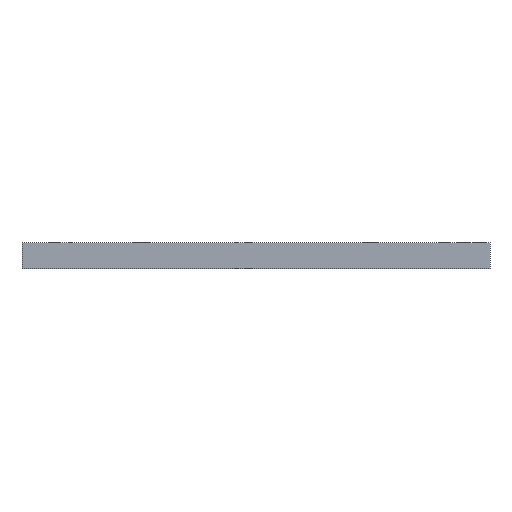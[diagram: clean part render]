
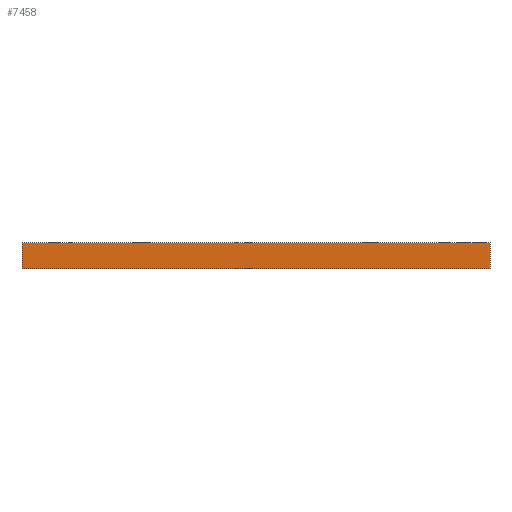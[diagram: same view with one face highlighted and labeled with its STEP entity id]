
A CAD part, front view. The second image highlights one B-rep face of the part: STEP entity #7458.
In plain terms, the highlighted planar face has unit normal (0, -1, 0).
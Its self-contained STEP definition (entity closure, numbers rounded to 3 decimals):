
#7445=AXIS2_PLACEMENT_3D('Plane Axis2P3D',#7442,#7443,#7444) ;
#190=CARTESIAN_POINT('Vertex',(-90.,-92.5,10.)) ;
#193=CARTESIAN_POINT('Line Origine',(0.,-92.5,10.)) ;
#197=CARTESIAN_POINT('Vertex',(90.,-92.5,10.)) ;
#6911=CARTESIAN_POINT('Vertex',(90.,-92.5,0.)) ;
#6914=CARTESIAN_POINT('Line Origine',(0.,-92.5,0.)) ;
#6918=CARTESIAN_POINT('Vertex',(-90.,-92.5,0.)) ;
#7430=CARTESIAN_POINT('Line Origine',(90.,-92.5,5.)) ;
#7442=CARTESIAN_POINT('Axis2P3D Location',(90.,-92.5,0.)) ;
#7447=CARTESIAN_POINT('Line Origine',(-90.,-92.5,5.)) ;
#194=DIRECTION('Vector Direction',(-1.,0.,0.)) ;
#6915=DIRECTION('Vector Direction',(-1.,0.,0.)) ;
#7431=DIRECTION('Vector Direction',(0.,0.,1.)) ;
#7443=DIRECTION('Axis2P3D Direction',(0.,1.,-0.)) ;
#7444=DIRECTION('Axis2P3D XDirection',(-1.,0.,0.)) ;
#7448=DIRECTION('Vector Direction',(0.,0.,1.)) ;
#195=VECTOR('Line Direction',#194,1.) ;
#6916=VECTOR('Line Direction',#6915,1.) ;
#7432=VECTOR('Line Direction',#7431,1.) ;
#7449=VECTOR('Line Direction',#7448,1.) ;
#7453=ORIENTED_EDGE('',*,*,#7451,.F.) ;
#7454=ORIENTED_EDGE('',*,*,#6920,.T.) ;
#7455=ORIENTED_EDGE('',*,*,#7434,.T.) ;
#7456=ORIENTED_EDGE('',*,*,#199,.F.) ;
#7458=ADVANCED_FACE('PartBody',(#7457),#7446,.F.) ;
#199=EDGE_CURVE('',#191,#198,#196,.F.) ;
#6920=EDGE_CURVE('',#6919,#6912,#6917,.F.) ;
#7434=EDGE_CURVE('',#6912,#198,#7433,.T.) ;
#7451=EDGE_CURVE('',#6919,#191,#7450,.T.) ;
#7452=EDGE_LOOP('',(#7453,#7454,#7455,#7456)) ;
#7457=FACE_OUTER_BOUND('',#7452,.T.) ;
#196=LINE('Line',#193,#195) ;
#6917=LINE('Line',#6914,#6916) ;
#7433=LINE('Line',#7430,#7432) ;
#7450=LINE('Line',#7447,#7449) ;
#7446=PLANE('Plane',#7445) ;
#191=VERTEX_POINT('',#190) ;
#198=VERTEX_POINT('',#197) ;
#6912=VERTEX_POINT('',#6911) ;
#6919=VERTEX_POINT('',#6918) ;
